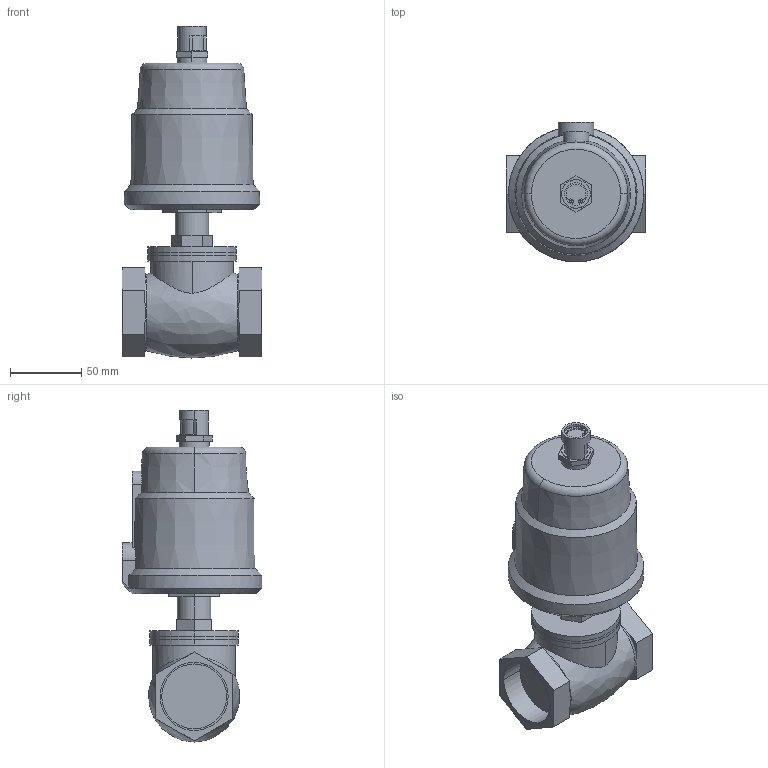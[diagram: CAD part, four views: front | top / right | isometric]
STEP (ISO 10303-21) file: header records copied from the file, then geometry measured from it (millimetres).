
FILE_DESCRIPTION((''),'2;1');
FILE_NAME('SB_KLAPAN_ASM','2024-06-08T',('AMD'),(''),'PRO/ENGINEER BY PARAMETRIC TECHNOLOGY CORPORATION, 2008020','PRO/ENGINEER BY PARAMETRIC TECHNOLOGY CORPORATION, 2008020','');
FILE_SCHEMA(('CONFIG_CONTROL_DESIGN'));
Length unit declared in the file: millimetre
Products named in the file (5): KLAPAN; UPLOTNENIE; KOLCO_16_GOST13943; KOLCO_82_GOST13943; SB_KLAPAN_ASM
Assembly tree (4 placements, depth 2):
  SB_KLAPAN_ASM
    KLAPAN
    UPLOTNENIE
    KOLCO_16_GOST13943
    KOLCO_82_GOST13943
Bounding box: 98 x 98 x 233 mm (x, y, z)
Volume: 839004.1 mm3; surface area: 91160.4 mm2
Topology: 4 solids, 8 shells, 173 faces, 437 edges, 290 vertices
Faces by surface type: plane 87, cylinder 71, cone 7, torus 6, bspline 2
Entity records: 5634 total; most frequent: CARTESIAN_POINT 1206, DIRECTION 954, ORIENTED_EDGE 858, EDGE_CURVE 437, AXIS2_PLACEMENT_3D 370, VERTEX_POINT 290, VECTOR 214, LINE 214
